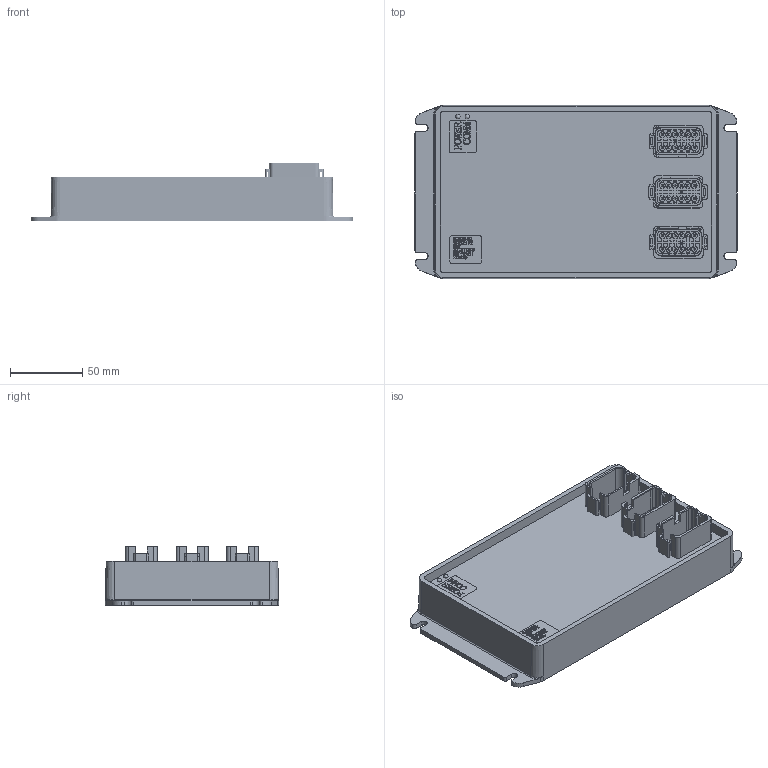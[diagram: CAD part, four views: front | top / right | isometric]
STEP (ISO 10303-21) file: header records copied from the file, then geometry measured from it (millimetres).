
FILE_DESCRIPTION (( 'STEP AP214' ), '1' );
FILE_NAME ('505040.STEP', '2025-02-14T17:40:49', ( '' ), ( '' ), 'SwSTEP 2.0', 'SolidWorks 2024', '' );
FILE_SCHEMA (( 'AUTOMOTIVE_DESIGN' ));
Length unit declared in the file: inch
Products named in the file (1): 505040
Bounding box: 223.01 x 120.02 x 40.85 mm (x, y, z)
Volume: 589671 mm3; surface area: 220168.6 mm2
Topology: 48 solids, 48 shells, 6121 faces, 17071 edges, 11084 vertices
Faces by surface type: plane 3906, cylinder 1231, bspline 873, cone 107, torus 4
Full cylindrical faces by diameter (mm): 0.889 x6, 0.965 x2, 1 x4, 1.118 x6, 1.58 x36, 1.829 x36, 2.438 x63, 2.6 x12, 3 x2, 3.76 x4, 5.08 x3
Entity records: 302368 total; most frequent: CARTESIAN_POINT 71643, ORIENTED_EDGE 33062, DIRECTION 27773, EDGE_CURVE 16531, LINE 11997, VECTOR 11997, VERTEX_POINT 11050, AXIS2_PLACEMENT_3D 7888
